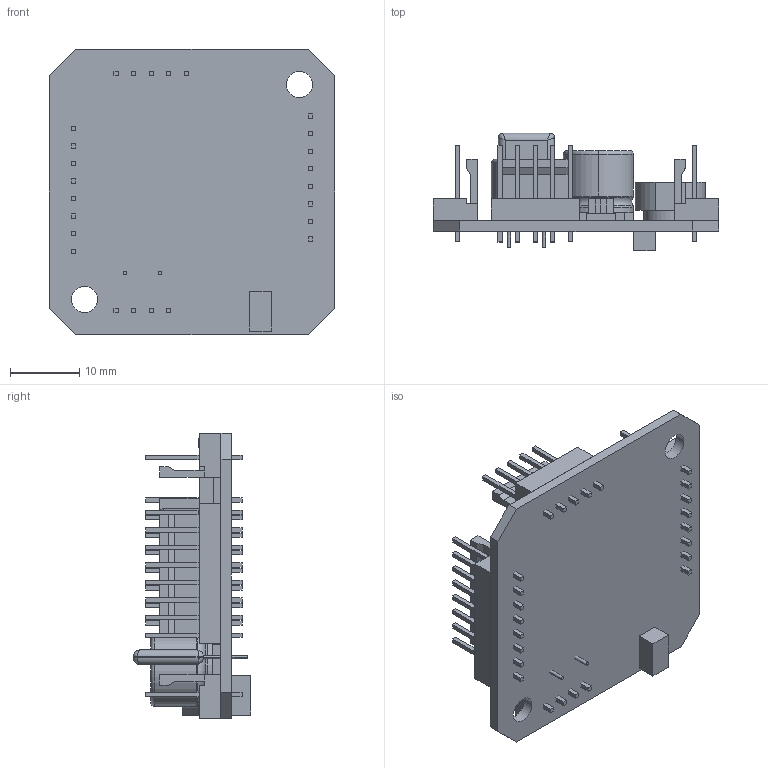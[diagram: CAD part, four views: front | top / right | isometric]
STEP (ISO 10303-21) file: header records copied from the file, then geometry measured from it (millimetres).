
FILE_DESCRIPTION((''),'2;1');
FILE_NAME('E2HK17EN_ASM','2008-09-02T',('yeevh'),(''),'PRO/ENGINEER BY PARAMETRIC TECHNOLOGY CORPORATION, 2006300','PRO/ENGINEER BY PARAMETRIC TECHNOLOGY CORPORATION, 2006300','');
FILE_SCHEMA(('CONFIG_CONTROL_DESIGN'));
Length unit declared in the file: inch
Products named in the file (11): PCB_1; CONNECTOR_8PIN; CONNECTOR_4PIN; COIL_2; CONNECTOR_5PIN; COIL_6; CAPACITOR_111; POT_11; CONNECTOR_9; IC; E2HK17EN_ASM
Assembly tree (12 placements, depth 2):
  E2HK17EN_ASM
    PCB_1
    CONNECTOR_8PIN  x2
    CONNECTOR_4PIN
    COIL_2  x2
    CONNECTOR_5PIN
    COIL_6
    CAPACITOR_111
    POT_11
    CONNECTOR_9
    IC
Bounding box: 41.27 x 17.02 x 41.27 mm (x, y, z)
Volume: 6888.2 mm3; surface area: 8633.5 mm2
Topology: 12 solids, 12 shells, 543 faces, 1323 edges, 866 vertices
Faces by surface type: plane 473, cylinder 40, torus 22, bspline 8
Entity records: 12998 total; most frequent: CARTESIAN_POINT 2898, ORIENTED_EDGE 2048, DIRECTION 1920, EDGE_CURVE 1024, VECTOR 904, LINE 904, VERTEX_POINT 672, AXIS2_PLACEMENT_3D 508
